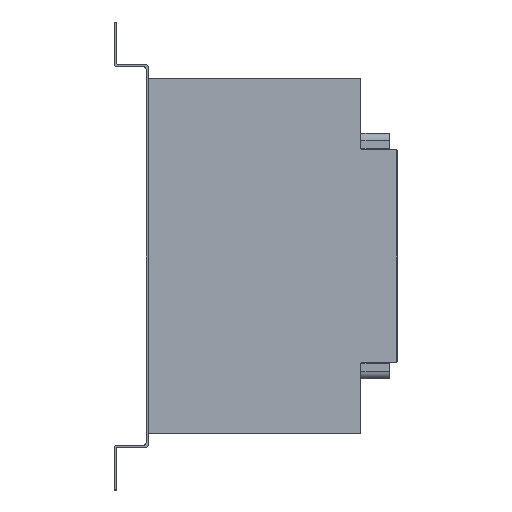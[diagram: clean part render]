
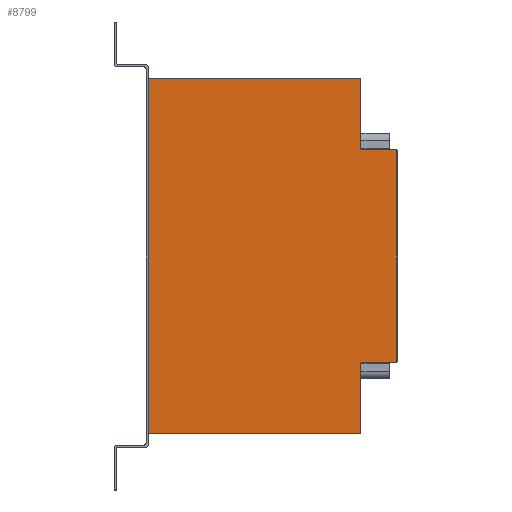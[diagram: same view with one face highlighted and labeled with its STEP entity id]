
A CAD part, left-side view. The second image highlights one B-rep face of the part: STEP entity #8799.
In plain terms, the highlighted planar face has unit normal (-1, 0, 0).
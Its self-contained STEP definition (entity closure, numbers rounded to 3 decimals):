
#383=PLANE('',#9389);
#720=FACE_OUTER_BOUND('',#1226,.T.);
#1226=EDGE_LOOP('',(#6455,#6456,#6457,#6458,#6459,#6460,#6461,#6462,#6463,
#6464,#6465,#6466));
#1782=LINE('',#12399,#2716);
#1850=LINE('',#12587,#2784);
#1896=LINE('',#12696,#2830);
#1971=LINE('',#12878,#2905);
#1982=LINE('',#12903,#2916);
#1989=LINE('',#12925,#2923);
#1990=LINE('',#12927,#2924);
#1991=LINE('',#12928,#2925);
#2716=VECTOR('',#10054,24.);
#2784=VECTOR('',#10212,24.);
#2830=VECTOR('',#10302,149.);
#2905=VECTOR('',#10463,149.);
#2916=VECTOR('',#10484,48.);
#2923=VECTOR('',#10513,150.);
#2924=VECTOR('',#10516,48.);
#2925=VECTOR('',#10517,250.);
#3596=CIRCLE('',#9285,1.);
#3608=CIRCLE('',#9326,1.);
#3630=CIRCLE('',#9374,1.);
#3632=CIRCLE('',#9380,1.);
#3872=VERTEX_POINT('',#12396);
#3873=VERTEX_POINT('',#12398);
#3899=VERTEX_POINT('',#12472);
#3947=VERTEX_POINT('',#12584);
#3948=VERTEX_POINT('',#12586);
#3983=VERTEX_POINT('',#12679);
#3984=VERTEX_POINT('',#12680);
#3989=VERTEX_POINT('',#12695);
#4052=VERTEX_POINT('',#12875);
#4053=VERTEX_POINT('',#12877);
#4058=VERTEX_POINT('',#12890);
#4062=VERTEX_POINT('',#12902);
#4751=EDGE_CURVE('',#3873,#3872,#1782,.T.);
#4790=EDGE_CURVE('',#3873,#3899,#3596,.T.);
#4845=EDGE_CURVE('',#3948,#3947,#1850,.T.);
#4895=EDGE_CURVE('',#3983,#3984,#3608,.T.);
#4903=EDGE_CURVE('',#3989,#3984,#1896,.T.);
#4998=EDGE_CURVE('',#4053,#4052,#1971,.T.);
#5005=EDGE_CURVE('',#4053,#4058,#3630,.T.);
#5011=EDGE_CURVE('',#4062,#4058,#1982,.T.);
#5014=EDGE_CURVE('',#4062,#3947,#3632,.T.);
#5024=EDGE_CURVE('',#3948,#3872,#1989,.T.);
#5025=EDGE_CURVE('',#3983,#3899,#1990,.T.);
#5026=EDGE_CURVE('',#3989,#4052,#1991,.T.);
#6455=ORIENTED_EDGE('',*,*,#4895,.F.);
#6456=ORIENTED_EDGE('',*,*,#5025,.T.);
#6457=ORIENTED_EDGE('',*,*,#4790,.F.);
#6458=ORIENTED_EDGE('',*,*,#4751,.T.);
#6459=ORIENTED_EDGE('',*,*,#5024,.F.);
#6460=ORIENTED_EDGE('',*,*,#4845,.T.);
#6461=ORIENTED_EDGE('',*,*,#5014,.F.);
#6462=ORIENTED_EDGE('',*,*,#5011,.T.);
#6463=ORIENTED_EDGE('',*,*,#5005,.F.);
#6464=ORIENTED_EDGE('',*,*,#4998,.T.);
#6465=ORIENTED_EDGE('',*,*,#5026,.F.);
#6466=ORIENTED_EDGE('',*,*,#4903,.T.);
#8799=ADVANCED_FACE('',(#720),#383,.T.);
#9285=AXIS2_PLACEMENT_3D('',#12473,#10124,#10125);
#9326=AXIS2_PLACEMENT_3D('',#12681,#10288,#10289);
#9374=AXIS2_PLACEMENT_3D('',#12891,#10472,#10473);
#9380=AXIS2_PLACEMENT_3D('',#12907,#10490,#10491);
#9389=AXIS2_PLACEMENT_3D('',#12926,#10514,#10515);
#10054=DIRECTION('',(0.,-1.,0.));
#10124=DIRECTION('center_axis',(-1.,0.,0.));
#10125=DIRECTION('ref_axis',(0.,0.707,0.707));
#10212=DIRECTION('',(0.,1.,0.));
#10288=DIRECTION('center_axis',(1.,0.,0.));
#10289=DIRECTION('ref_axis',(0.,-0.707,-0.707));
#10302=DIRECTION('',(0.,-1.,0.));
#10463=DIRECTION('',(0.,1.,0.));
#10472=DIRECTION('center_axis',(1.,0.,0.));
#10473=DIRECTION('ref_axis',(0.,-0.707,0.707));
#10484=DIRECTION('',(0.,0.,1.));
#10490=DIRECTION('center_axis',(-1.,0.,0.));
#10491=DIRECTION('ref_axis',(0.,0.707,-0.707));
#10513=DIRECTION('',(0.,0.,-1.));
#10514=DIRECTION('center_axis',(-1.,0.,0.));
#10515=DIRECTION('ref_axis',(0.,-1.,0.));
#10516=DIRECTION('',(0.,0.,1.));
#10517=DIRECTION('',(0.,0.,1.));
#12396=CARTESIAN_POINT('',(32.345,-376.901,67.5));
#12398=CARTESIAN_POINT('',(32.345,-352.901,67.5));
#12399=CARTESIAN_POINT('',(32.345,-351.901,67.5));
#12472=CARTESIAN_POINT('',(32.345,-351.901,66.5));
#12473=CARTESIAN_POINT('Origin',(32.345,-352.901,66.5));
#12584=CARTESIAN_POINT('',(32.345,-352.901,217.5));
#12586=CARTESIAN_POINT('',(32.345,-376.901,217.5));
#12587=CARTESIAN_POINT('',(32.345,-377.901,217.5));
#12679=CARTESIAN_POINT('',(32.345,-351.901,18.5));
#12680=CARTESIAN_POINT('',(32.345,-350.901,17.5));
#12681=CARTESIAN_POINT('Origin',(32.345,-350.901,18.5));
#12695=CARTESIAN_POINT('',(32.345,-201.901,17.5));
#12696=CARTESIAN_POINT('',(32.345,-201.901,17.5));
#12875=CARTESIAN_POINT('',(32.345,-201.901,267.5));
#12877=CARTESIAN_POINT('',(32.345,-350.901,267.5));
#12878=CARTESIAN_POINT('',(32.345,-351.901,267.5));
#12890=CARTESIAN_POINT('',(32.345,-351.901,266.5));
#12891=CARTESIAN_POINT('Origin',(32.345,-350.901,266.5));
#12902=CARTESIAN_POINT('',(32.345,-351.901,218.5));
#12903=CARTESIAN_POINT('',(32.345,-351.901,217.5));
#12907=CARTESIAN_POINT('Origin',(32.345,-352.901,218.5));
#12925=CARTESIAN_POINT('',(32.345,-376.901,105.));
#12926=CARTESIAN_POINT('Origin',(32.345,-286.85,142.5));
#12927=CARTESIAN_POINT('',(32.345,-351.901,17.5));
#12928=CARTESIAN_POINT('',(32.345,-201.901,210.));
